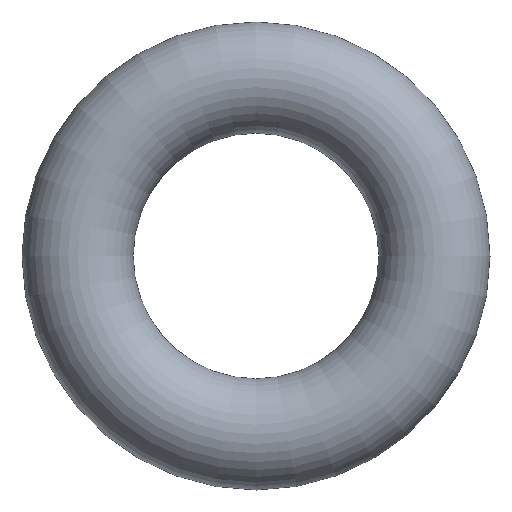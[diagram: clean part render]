
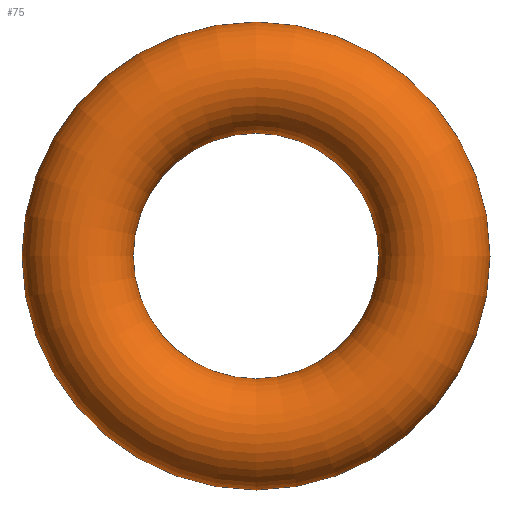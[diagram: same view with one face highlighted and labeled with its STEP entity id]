
A CAD part, front view. The second image highlights one B-rep face of the part: STEP entity #75.
In plain terms, the highlighted toroidal (fillet/blend) face has major radius 3.85 mm and minor radius 1.2 mm.
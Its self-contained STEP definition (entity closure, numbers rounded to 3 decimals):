
#75 = ADVANCED_FACE( '', ( #77 ), #78, .T. );
#77 = FACE_BOUND( '', #79, .T. );
#78 = TOROIDAL_SURFACE( '', #80, 3.85, 1.2 );
#79 = VERTEX_LOOP( '', #81 );
#80 = AXIS2_PLACEMENT_3D( '', #82, #83, #84 );
#81 = VERTEX_POINT( '', #85 );
#82 = CARTESIAN_POINT( '', ( 0., 0., 0. ) );
#83 = DIRECTION( '', ( 0., -1., 0. ) );
#84 = DIRECTION( '', ( 0., 0., -1. ) );
#85 = CARTESIAN_POINT( '', ( 0., 0., -5.05 ) );
